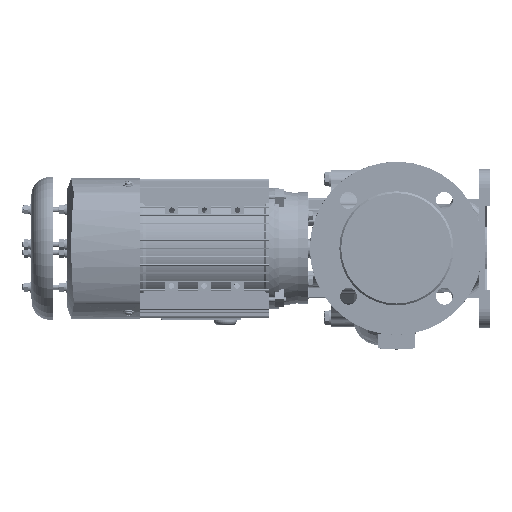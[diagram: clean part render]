
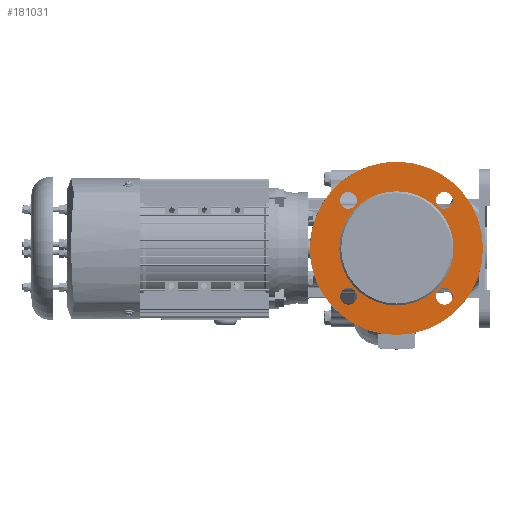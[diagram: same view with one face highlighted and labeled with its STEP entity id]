
A CAD part, left-side view. The second image highlights one B-rep face of the part: STEP entity #181031.
In plain terms, the highlighted planar face has unit normal (-1, 0, 0).
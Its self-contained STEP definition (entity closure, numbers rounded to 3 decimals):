
#6127 = FACE_BOUND ( 'NONE', #262588, .T. ) ;
#6708 = VERTEX_POINT ( 'NONE', #300106 ) ;
#11423 = VERTEX_POINT ( 'NONE', #319834 ) ;
#19109 = AXIS2_PLACEMENT_3D ( 'NONE', #73586, #253697, #99570 ) ;
#20432 = DIRECTION ( 'NONE',  ( 1., 0., 0. ) ) ;
#23358 = EDGE_LOOP ( 'NONE', ( #247694 ) ) ;
#27691 = VERTEX_POINT ( 'NONE', #127220 ) ;
#38069 = CIRCLE ( 'NONE', #309771, 9. ) ;
#42113 = CARTESIAN_POINT ( 'NONE',  ( -115.974, 224.777, 271.92 ) ) ;
#44094 = DIRECTION ( 'NONE',  ( 1., 0., 0. ) ) ;
#45607 = EDGE_LOOP ( 'NONE', ( #252602 ) ) ;
#47417 = CIRCLE ( 'NONE', #136029, 9. ) ;
#61354 = EDGE_CURVE ( 'NONE', #27691, #27691, #99859, .T. ) ;
#66510 = FACE_BOUND ( 'NONE', #252071, .T. ) ;
#73586 = CARTESIAN_POINT ( 'NONE',  ( -115.974, 164.512, 323.185 ) ) ;
#91061 = CARTESIAN_POINT ( 'NONE',  ( -115.974, 225.512, 323.185 ) ) ;
#99570 = DIRECTION ( 'NONE',  ( 0., -1., 0. ) ) ;
#99859 = CIRCLE ( 'NONE', #19109, 61. ) ;
#107999 = VERTEX_POINT ( 'NONE', #116349 ) ;
#116349 = CARTESIAN_POINT ( 'NONE',  ( -115.974, 122.246, 271.92 ) ) ;
#116900 = EDGE_LOOP ( 'NONE', ( #279249 ) ) ;
#116915 = DIRECTION ( 'NONE',  ( 0., 1., 0. ) ) ;
#127220 = CARTESIAN_POINT ( 'NONE',  ( -115.974, 103.512, 323.185 ) ) ;
#133501 = ORIENTED_EDGE ( 'NONE', *, *, #61354, .F. ) ;
#134073 = CARTESIAN_POINT ( 'NONE',  ( -115.974, 215.777, 271.92 ) ) ;
#136029 = AXIS2_PLACEMENT_3D ( 'NONE', #292667, #138608, #318421 ) ;
#136745 = EDGE_CURVE ( 'NONE', #167850, #167850, #294030, .T. ) ;
#138608 = DIRECTION ( 'NONE',  ( 1., 0., 0. ) ) ;
#141639 = PLANE ( 'NONE',  #313015 ) ;
#143957 = EDGE_CURVE ( 'NONE', #6708, #6708, #47417, .T. ) ;
#151688 = DIRECTION ( 'NONE',  ( -1., 0., 0. ) ) ;
#159987 = DIRECTION ( 'NONE',  ( 0., 1., 0. ) ) ;
#160305 = EDGE_LOOP ( 'NONE', ( #133501 ) ) ;
#165127 = VERTEX_POINT ( 'NONE', #42113 ) ;
#167850 = VERTEX_POINT ( 'NONE', #247270 ) ;
#174634 = CARTESIAN_POINT ( 'NONE',  ( -115.974, 113.246, 374.45 ) ) ;
#181031 = ADVANCED_FACE ( 'NONE', ( #203402, #66510, #6127, #332028, #263822, #195430 ), #141639, .F. ) ;
#195430 = FACE_BOUND ( 'NONE', #160305, .T. ) ;
#198150 = ORIENTED_EDGE ( 'NONE', *, *, #136745, .T. ) ;
#198273 = CARTESIAN_POINT ( 'NONE',  ( -115.974, 113.246, 271.92 ) ) ;
#200456 = DIRECTION ( 'NONE',  ( 0., 1., 0. ) ) ;
#203402 = FACE_BOUND ( 'NONE', #23358, .T. ) ;
#224160 = DIRECTION ( 'NONE',  ( 0., 1., 0. ) ) ;
#224361 = AXIS2_PLACEMENT_3D ( 'NONE', #174634, #20432, #200456 ) ;
#228407 = AXIS2_PLACEMENT_3D ( 'NONE', #198273, #44094, #224160 ) ;
#247270 = CARTESIAN_POINT ( 'NONE',  ( -115.974, 122.246, 374.45 ) ) ;
#247694 = ORIENTED_EDGE ( 'NONE', *, *, #143957, .T. ) ;
#248745 = EDGE_CURVE ( 'NONE', #165127, #165127, #38069, .T. ) ;
#252071 = EDGE_LOOP ( 'NONE', ( #198150 ) ) ;
#252602 = ORIENTED_EDGE ( 'NONE', *, *, #309419, .T. ) ;
#253697 = DIRECTION ( 'NONE',  ( -1., 0., 0. ) ) ;
#256410 = CIRCLE ( 'NONE', #228407, 9. ) ;
#262588 = EDGE_LOOP ( 'NONE', ( #263016 ) ) ;
#263016 = ORIENTED_EDGE ( 'NONE', *, *, #317813, .T. ) ;
#263822 = FACE_OUTER_BOUND ( 'NONE', #45607, .T. ) ;
#271000 = DIRECTION ( 'NONE',  ( 1., 0., 0. ) ) ;
#279249 = ORIENTED_EDGE ( 'NONE', *, *, #248745, .T. ) ;
#287421 = CIRCLE ( 'NONE', #317899, 92.5 ) ;
#292667 = CARTESIAN_POINT ( 'NONE',  ( -115.974, 215.777, 374.45 ) ) ;
#294030 = CIRCLE ( 'NONE', #224361, 9. ) ;
#300106 = CARTESIAN_POINT ( 'NONE',  ( -115.974, 224.777, 374.45 ) ) ;
#305678 = CARTESIAN_POINT ( 'NONE',  ( -115.974, 164.512, 323.185 ) ) ;
#309419 = EDGE_CURVE ( 'NONE', #11423, #11423, #287421, .T. ) ;
#309771 = AXIS2_PLACEMENT_3D ( 'NONE', #134073, #313942, #159987 ) ;
#313015 = AXIS2_PLACEMENT_3D ( 'NONE', #91061, #271000, #116915 ) ;
#313942 = DIRECTION ( 'NONE',  ( 1., 0., 0. ) ) ;
#317813 = EDGE_CURVE ( 'NONE', #107999, #107999, #256410, .T. ) ;
#317899 = AXIS2_PLACEMENT_3D ( 'NONE', #305678, #151688, #331449 ) ;
#318421 = DIRECTION ( 'NONE',  ( 0., 1., 0. ) ) ;
#319834 = CARTESIAN_POINT ( 'NONE',  ( -115.974, 72.012, 323.185 ) ) ;
#331449 = DIRECTION ( 'NONE',  ( 0., -1., 0. ) ) ;
#332028 = FACE_BOUND ( 'NONE', #116900, .T. ) ;
